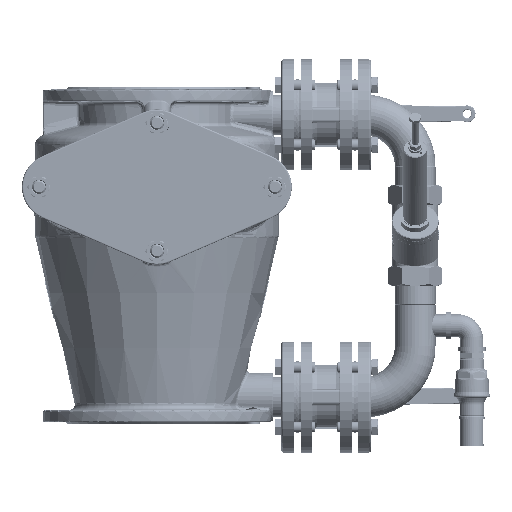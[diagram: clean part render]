
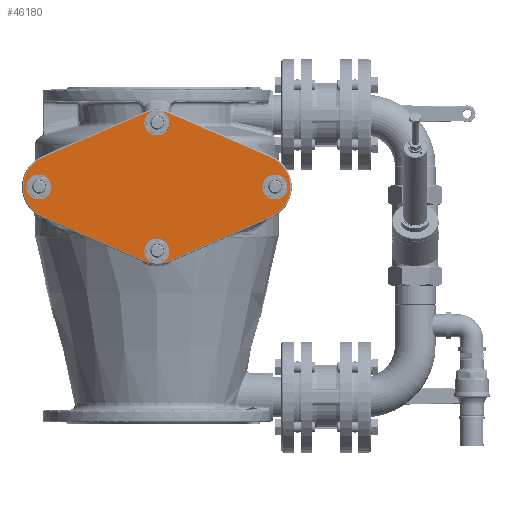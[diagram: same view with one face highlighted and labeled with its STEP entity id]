
A CAD part, left-side view. The second image highlights one B-rep face of the part: STEP entity #46180.
In plain terms, the highlighted planar face has unit normal (-1, 0, 0).
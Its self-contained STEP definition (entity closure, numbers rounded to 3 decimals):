
#45903=CARTESIAN_POINT('',(-254.,-156.5,0.0));
#45904=VERTEX_POINT('',#45903);
#45905=CARTESIAN_POINT('',(-254.,-175.0,0.0));
#45906=DIRECTION('',(1.0,0.0,0.0));
#45907=DIRECTION('',(0.0,1.0,0.0));
#45908=AXIS2_PLACEMENT_3D('',#45905,#45906,#45907);
#45909=CIRCLE('',#45908,18.5);
#45910=EDGE_CURVE('',#45904,#45904,#45909,.T.);
#45988=CARTESIAN_POINT('',(-254.0,-5.395,112.696));
#45989=VERTEX_POINT('',#45988);
#45990=CARTESIAN_POINT('',(-254.0,5.395,112.696));
#45991=VERTEX_POINT('',#45990);
#46014=CARTESIAN_POINT('',(-254.,0.0,95.0));
#46015=DIRECTION('',(1.0,0.0,0.0));
#46016=DIRECTION('',(0.0,1.0,0.0));
#46017=AXIS2_PLACEMENT_3D('',#46014,#46015,#46016);
#46018=CIRCLE('',#46017,18.5);
#46019=EDGE_CURVE('',#45989,#45991,#46018,.T.);
#46065=CARTESIAN_POINT('',(-254.,0.0,0.0));
#46066=DIRECTION('',(1.0,0.0,0.0));
#46067=DIRECTION('',(0.0,-1.0,0.0));
#46068=AXIS2_PLACEMENT_3D('',#46065,#46066,#46067);
#46069=PLANE('',#46068);
#46070=ORIENTED_EDGE('',*,*,#46019,.T.);
#46071=CARTESIAN_POINT('',(-254.,19.085,109.043));
#46072=VERTEX_POINT('',#46071);
#46073=CARTESIAN_POINT('',(-254.,0.0,65.0));
#46074=DIRECTION('',(-1.0,0.0,0.0));
#46075=DIRECTION('',(0.0,-0.398,0.918));
#46076=AXIS2_PLACEMENT_3D('',#46073,#46074,#46075);
#46077=CIRCLE('',#46076,48.);
#46078=EDGE_CURVE('',#45991,#46072,#46077,.T.);
#46079=ORIENTED_EDGE('',*,*,#46078,.T.);
#46080=CARTESIAN_POINT('',(-254.,169.085,44.043));
#46081=VERTEX_POINT('',#46080);
#46082=CARTESIAN_POINT('',(-254.,19.085,109.043));
#46083=DIRECTION('',(0.0,0.918,-0.398));
#46084=VECTOR('',#46083,163.478);
#46085=LINE('',#46082,#46084);
#46086=EDGE_CURVE('',#46072,#46081,#46085,.T.);
#46087=ORIENTED_EDGE('',*,*,#46086,.T.);
#46088=CARTESIAN_POINT('',(-254.,169.085,-44.043));
#46089=VERTEX_POINT('',#46088);
#46090=CARTESIAN_POINT('',(-254.,150.0,0.0));
#46091=DIRECTION('',(-1.0,0.0,0.0));
#46092=DIRECTION('',(0.0,0.398,0.918));
#46093=AXIS2_PLACEMENT_3D('',#46090,#46091,#46092);
#46094=CIRCLE('',#46093,48.);
#46095=EDGE_CURVE('',#46081,#46089,#46094,.T.);
#46096=ORIENTED_EDGE('',*,*,#46095,.T.);
#46097=CARTESIAN_POINT('',(-254.,19.085,-109.043));
#46098=VERTEX_POINT('',#46097);
#46099=CARTESIAN_POINT('',(-254.,169.085,-44.043));
#46100=DIRECTION('',(0.0,-0.918,-0.398));
#46101=VECTOR('',#46100,163.478);
#46102=LINE('',#46099,#46101);
#46103=EDGE_CURVE('',#46089,#46098,#46102,.T.);
#46104=ORIENTED_EDGE('',*,*,#46103,.T.);
#46105=CARTESIAN_POINT('',(-254.0,5.395,-112.696));
#46106=VERTEX_POINT('',#46105);
#46107=CARTESIAN_POINT('',(-254.,0.0,-65.0));
#46108=DIRECTION('',(-1.0,0.0,0.0));
#46109=DIRECTION('',(0.0,0.398,-0.918));
#46110=AXIS2_PLACEMENT_3D('',#46107,#46108,#46109);
#46111=CIRCLE('',#46110,48.);
#46112=EDGE_CURVE('',#46098,#46106,#46111,.T.);
#46113=ORIENTED_EDGE('',*,*,#46112,.T.);
#46114=CARTESIAN_POINT('',(-254.0,-5.395,-112.696));
#46115=VERTEX_POINT('',#46114);
#46116=CARTESIAN_POINT('',(-254.,0.0,-95.0));
#46117=DIRECTION('',(1.0,0.0,0.0));
#46118=DIRECTION('',(0.0,1.0,0.0));
#46119=AXIS2_PLACEMENT_3D('',#46116,#46117,#46118);
#46120=CIRCLE('',#46119,18.5);
#46121=EDGE_CURVE('',#46106,#46115,#46120,.T.);
#46122=ORIENTED_EDGE('',*,*,#46121,.T.);
#46123=CARTESIAN_POINT('',(-254.,-19.085,-109.043));
#46124=VERTEX_POINT('',#46123);
#46125=CARTESIAN_POINT('',(-254.,0.0,-65.0));
#46126=DIRECTION('',(-1.0,0.0,0.0));
#46127=DIRECTION('',(0.0,0.398,-0.918));
#46128=AXIS2_PLACEMENT_3D('',#46125,#46126,#46127);
#46129=CIRCLE('',#46128,48.);
#46130=EDGE_CURVE('',#46115,#46124,#46129,.T.);
#46131=ORIENTED_EDGE('',*,*,#46130,.T.);
#46132=CARTESIAN_POINT('',(-254.,-169.085,-44.043));
#46133=VERTEX_POINT('',#46132);
#46134=CARTESIAN_POINT('',(-254.,-19.085,-109.043));
#46135=DIRECTION('',(0.0,-0.918,0.398));
#46136=VECTOR('',#46135,163.478);
#46137=LINE('',#46134,#46136);
#46138=EDGE_CURVE('',#46124,#46133,#46137,.T.);
#46139=ORIENTED_EDGE('',*,*,#46138,.T.);
#46140=CARTESIAN_POINT('',(-254.,-169.085,44.043));
#46141=VERTEX_POINT('',#46140);
#46142=CARTESIAN_POINT('',(-254.,-150.0,0.0));
#46143=DIRECTION('',(-1.0,0.0,0.0));
#46144=DIRECTION('',(0.0,-0.398,-0.918));
#46145=AXIS2_PLACEMENT_3D('',#46142,#46143,#46144);
#46146=CIRCLE('',#46145,48.);
#46147=EDGE_CURVE('',#46133,#46141,#46146,.T.);
#46148=ORIENTED_EDGE('',*,*,#46147,.T.);
#46149=CARTESIAN_POINT('',(-254.,-19.085,109.043));
#46150=VERTEX_POINT('',#46149);
#46151=CARTESIAN_POINT('',(-254.,-169.085,44.043));
#46152=DIRECTION('',(0.0,0.918,0.398));
#46153=VECTOR('',#46152,163.478);
#46154=LINE('',#46151,#46153);
#46155=EDGE_CURVE('',#46141,#46150,#46154,.T.);
#46156=ORIENTED_EDGE('',*,*,#46155,.T.);
#46157=CARTESIAN_POINT('',(-254.,0.0,65.0));
#46158=DIRECTION('',(-1.0,0.0,0.0));
#46159=DIRECTION('',(0.0,-0.398,0.918));
#46160=AXIS2_PLACEMENT_3D('',#46157,#46158,#46159);
#46161=CIRCLE('',#46160,48.);
#46162=EDGE_CURVE('',#46150,#45989,#46161,.T.);
#46163=ORIENTED_EDGE('',*,*,#46162,.T.);
#46164=EDGE_LOOP('',(#46070,#46079,#46087,#46096,#46104,#46113,#46122,#46131,#46139,#46148,#46156,#46163));
#46165=FACE_OUTER_BOUND('',#46164,.T.);
#46166=ORIENTED_EDGE('',*,*,#45910,.T.);
#46167=EDGE_LOOP('',(#46166));
#46168=FACE_BOUND('',#46167,.T.);
#46169=CARTESIAN_POINT('',(-254.,193.5,0.0));
#46170=VERTEX_POINT('',#46169);
#46171=CARTESIAN_POINT('',(-254.,175.0,0.0));
#46172=DIRECTION('',(1.0,0.0,0.0));
#46173=DIRECTION('',(0.0,1.0,0.0));
#46174=AXIS2_PLACEMENT_3D('',#46171,#46172,#46173);
#46175=CIRCLE('',#46174,18.5);
#46176=EDGE_CURVE('',#46170,#46170,#46175,.T.);
#46177=ORIENTED_EDGE('',*,*,#46176,.T.);
#46178=EDGE_LOOP('',(#46177));
#46179=FACE_BOUND('',#46178,.T.);
#46180=ADVANCED_FACE('',(#46165,#46168,#46179),#46069,.F.);
